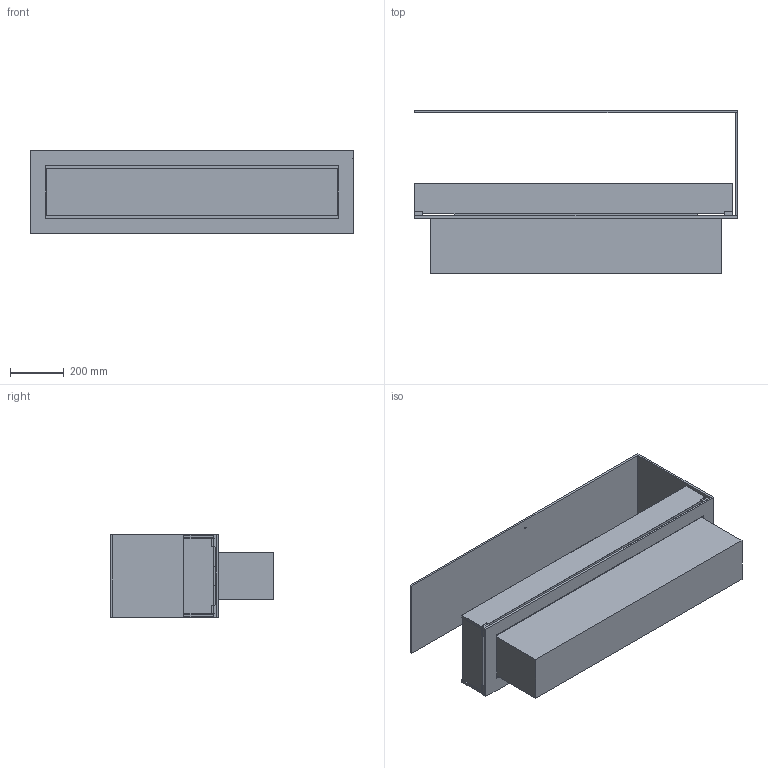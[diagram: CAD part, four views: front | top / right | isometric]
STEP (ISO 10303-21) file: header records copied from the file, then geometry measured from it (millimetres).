
FILE_DESCRIPTION (( 'STEP AP203' ), '1' );
FILE_NAME ('Montreal open to front, back and 1 side 1200 Hybrid Mist.STEP', '2024-03-21T14:27:11', ( '' ), ( '' ), 'SwSTEP 2.0', 'SolidWorks 2023', '' );
FILE_SCHEMA (( 'CONFIG_CONTROL_DESIGN' ));
Length unit declared in the file: millimetre
Products named in the file (9): Glas holder flad med sider 10mm; 8mm alu Top - P&G -1120SIShowroom -look book; Montreal open to front, back and 1 side 1200 Hybrid Mist; Part2^P&G -1120SI Montreal Single AUTOShowroom -look book; Part4^P&G -1120SI Montreal Single AUTOShowroom -look book; 8mm alu Side - P&G -1120SIShowroom -look book_Glass; Denver F6_uden glass; 8mm alu Bund - P&G -1120SIShowroom -look book; Part3^P&G -1120SI Montreal Single AUTOShowroom -look book
Assembly tree (13 placements, depth 2):
  Montreal open to front, back and 1 side 1200 Hybrid Mist
    8mm alu Top - P&G -1120SIShowroom -look book
    8mm alu Bund - P&G -1120SIShowroom -look book
    8mm alu Side - P&G -1120SIShowroom -look book_Glass
    Glas holder flad med sider 10mm  x6
    Part2^P&G -1120SI Montreal Single AUTOShowroom -look book
    Part4^P&G -1120SI Montreal Single AUTOShowroom -look book  x2
    Denver F6_uden glass
  Part3^P&G -1120SI Montreal Single AUTOShowroom -look book
Bounding box: 1200 x 605 x 308 mm (x, y, z)
Volume: 50261650.1 mm3; surface area: 3535175.9 mm2
Topology: 17 solids, 17 shells, 244 faces, 545 edges, 342 vertices
Faces by surface type: plane 214, cylinder 30
Entity records: 5372 total; most frequent: CARTESIAN_POINT 744, DIRECTION 736, ORIENTED_EDGE 704, EDGE_CURVE 352, VECTOR 312, LINE 312, VERTEX_POINT 220, AXIS2_PLACEMENT_3D 212
